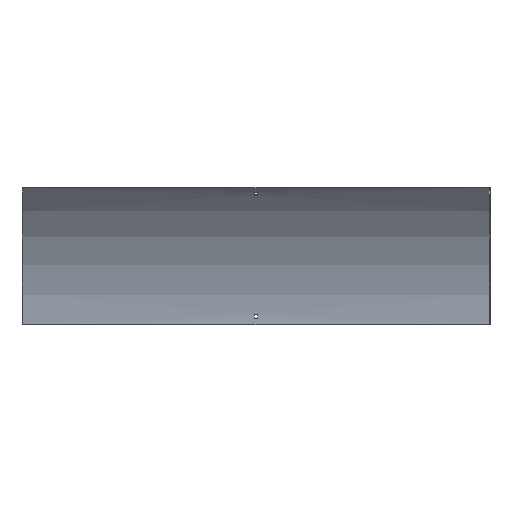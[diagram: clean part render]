
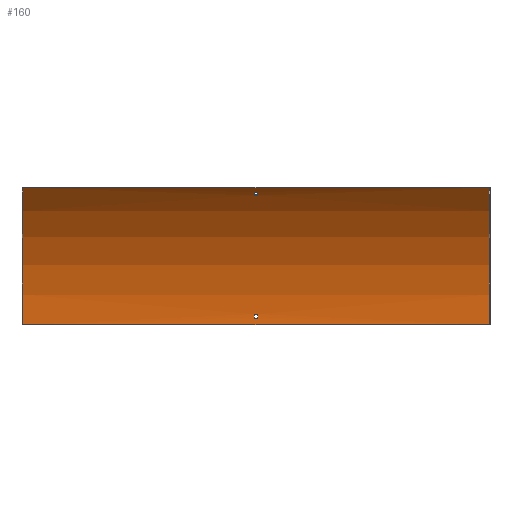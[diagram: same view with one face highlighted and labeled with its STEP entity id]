
A CAD part, front view. The second image highlights one B-rep face of the part: STEP entity #160.
In plain terms, the highlighted cylindrical face has radius 375 mm (diameter 750 mm), a partial arc.
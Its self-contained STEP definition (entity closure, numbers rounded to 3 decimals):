
#6 = DIRECTION ( 'NONE',  ( -1., 0., 0. ) ) ;
#14 = CARTESIAN_POINT ( 'NONE',  ( 451.5, -376.5, 0. ) ) ;
#15 = AXIS2_PLACEMENT_3D ( 'NONE', #451, #28, #536 ) ;
#16 = DIRECTION ( 'NONE',  ( 0., 0., 1. ) ) ;
#17 = CARTESIAN_POINT ( 'NONE',  ( 3.25, -376.5, 0. ) ) ;
#27 = CIRCLE ( 'NONE', #453, 375. ) ;
#28 = DIRECTION ( 'NONE',  ( 1., 0., 0. ) ) ;
#30 = DIRECTION ( 'NONE',  ( 0., 0., -1. ) ) ;
#35 = CARTESIAN_POINT ( 'NONE',  ( 451.5, -1.692, 12. ) ) ;
#43 = CARTESIAN_POINT ( 'NONE',  ( 450., -111.335, 265.165 ) ) ;
#59 = DIRECTION ( 'NONE',  ( 0., 0., -1. ) ) ;
#61 = VECTOR ( 'NONE', #334, 1000. ) ;
#62 = CARTESIAN_POINT ( 'NONE',  ( -450., -376.5, 0. ) ) ;
#65 = FACE_OUTER_BOUND ( 'NONE', #89, .T. ) ;
#82 = VECTOR ( 'NONE', #579, 1000. ) ;
#84 = EDGE_CURVE ( 'NONE', #548, #153, #145, .T. ) ;
#89 = EDGE_LOOP ( 'NONE', ( #166, #185, #238, #311 ) ) ;
#102 = VECTOR ( 'NONE', #492, 1000. ) ;
#108 = CARTESIAN_POINT ( 'NONE',  ( 451.5, -96.902, 249.9 ) ) ;
#112 = CIRCLE ( 'NONE', #195, 375. ) ;
#121 = DIRECTION ( 'NONE',  ( 1., 0., 0. ) ) ;
#131 = LINE ( 'NONE', #43, #568 ) ;
#143 = CARTESIAN_POINT ( 'NONE',  ( 451.5, -2.088, 21. ) ) ;
#145 = CIRCLE ( 'NONE', #520, 375. ) ;
#147 = CIRCLE ( 'NONE', #15, 375. ) ;
#153 = VERTEX_POINT ( 'NONE', #343 ) ;
#160 = ADVANCED_FACE ( 'NONE', ( #441, #65, #254 ), #440, .F. ) ;
#166 = ORIENTED_EDGE ( 'NONE', *, *, #322, .F. ) ;
#170 = DIRECTION ( 'NONE',  ( 1., 0., 0. ) ) ;
#181 = VERTEX_POINT ( 'NONE', #310 ) ;
#185 = ORIENTED_EDGE ( 'NONE', *, *, #482, .F. ) ;
#195 = AXIS2_PLACEMENT_3D ( 'NONE', #428, #6, #241 ) ;
#197 = DIRECTION ( 'NONE',  ( -1., 0., 0. ) ) ;
#202 = ORIENTED_EDGE ( 'NONE', *, *, #473, .F. ) ;
#205 = DIRECTION ( 'NONE',  ( 1., 0., 0. ) ) ;
#207 = DIRECTION ( 'NONE',  ( 0., 0., 1. ) ) ;
#212 = CARTESIAN_POINT ( 'NONE',  ( 451.5, -102.985, 256.544 ) ) ;
#213 = LINE ( 'NONE', #35, #299 ) ;
#214 = LINE ( 'NONE', #108, #61 ) ;
#230 = CARTESIAN_POINT ( 'NONE',  ( 3.25, -102.985, 256.544 ) ) ;
#235 = VERTEX_POINT ( 'NONE', #584 ) ;
#237 = CARTESIAN_POINT ( 'NONE',  ( -3.25, -1.692, 12. ) ) ;
#238 = ORIENTED_EDGE ( 'NONE', *, *, #387, .T. ) ;
#241 = DIRECTION ( 'NONE',  ( 0., 0., 1. ) ) ;
#254 = FACE_BOUND ( 'NONE', #366, .T. ) ;
#265 = EDGE_CURVE ( 'NONE', #458, #235, #213, .T. ) ;
#277 = ORIENTED_EDGE ( 'NONE', *, *, #402, .T. ) ;
#282 = ORIENTED_EDGE ( 'NONE', *, *, #514, .F. ) ;
#290 = DIRECTION ( 'NONE',  ( 0., 0., -1. ) ) ;
#294 = CARTESIAN_POINT ( 'NONE',  ( 450., -376.5, 0. ) ) ;
#295 = EDGE_CURVE ( 'NONE', #586, #300, #147, .T. ) ;
#299 = VECTOR ( 'NONE', #443, 1000. ) ;
#300 = VERTEX_POINT ( 'NONE', #542 ) ;
#310 = CARTESIAN_POINT ( 'NONE',  ( 450., -111.335, 265.165 ) ) ;
#311 = ORIENTED_EDGE ( 'NONE', *, *, #601, .T. ) ;
#322 = EDGE_CURVE ( 'NONE', #541, #587, #27, .T. ) ;
#330 = VERTEX_POINT ( 'NONE', #477 ) ;
#334 = DIRECTION ( 'NONE',  ( -1., 0., 0. ) ) ;
#343 = CARTESIAN_POINT ( 'NONE',  ( 3.25, -96.902, 249.9 ) ) ;
#346 = LINE ( 'NONE', #528, #102 ) ;
#349 = EDGE_CURVE ( 'NONE', #300, #548, #427, .T. ) ;
#350 = DIRECTION ( 'NONE',  ( -1., 0., 0. ) ) ;
#352 = DIRECTION ( 'NONE',  ( 1., 0., 0. ) ) ;
#356 = EDGE_LOOP ( 'NONE', ( #411, #202, #282, #407 ) ) ;
#362 = CARTESIAN_POINT ( 'NONE',  ( -3.25, -96.902, 249.9 ) ) ;
#366 = EDGE_LOOP ( 'NONE', ( #277, #506, #551, #538 ) ) ;
#372 = CARTESIAN_POINT ( 'NONE',  ( -450., -1.5, 0. ) ) ;
#387 = EDGE_CURVE ( 'NONE', #544, #181, #479, .T. ) ;
#390 = LINE ( 'NONE', #143, #82 ) ;
#393 = DIRECTION ( 'NONE',  ( -1., 0., 0. ) ) ;
#394 = CARTESIAN_POINT ( 'NONE',  ( 3.25, -376.5, 0. ) ) ;
#402 = EDGE_CURVE ( 'NONE', #153, #586, #214, .T. ) ;
#407 = ORIENTED_EDGE ( 'NONE', *, *, #265, .F. ) ;
#411 = ORIENTED_EDGE ( 'NONE', *, *, #435, .F. ) ;
#412 = CARTESIAN_POINT ( 'NONE',  ( 450., -1.5, 0. ) ) ;
#415 = VERTEX_POINT ( 'NONE', #515 ) ;
#427 = LINE ( 'NONE', #212, #433 ) ;
#428 = CARTESIAN_POINT ( 'NONE',  ( -3.25, -376.5, 0. ) ) ;
#433 = VECTOR ( 'NONE', #121, 1000. ) ;
#435 = EDGE_CURVE ( 'NONE', #415, #458, #112, .T. ) ;
#440 = CYLINDRICAL_SURFACE ( 'NONE', #489, 375. ) ;
#441 = FACE_BOUND ( 'NONE', #356, .T. ) ;
#442 = AXIS2_PLACEMENT_3D ( 'NONE', #17, #170, #30 ) ;
#443 = DIRECTION ( 'NONE',  ( 1., 0., 0. ) ) ;
#446 = CARTESIAN_POINT ( 'NONE',  ( -450., -111.335, 265.165 ) ) ;
#451 = CARTESIAN_POINT ( 'NONE',  ( -3.25, -376.5, 0. ) ) ;
#453 = AXIS2_PLACEMENT_3D ( 'NONE', #62, #352, #290 ) ;
#458 = VERTEX_POINT ( 'NONE', #237 ) ;
#473 = EDGE_CURVE ( 'NONE', #330, #415, #390, .T. ) ;
#477 = CARTESIAN_POINT ( 'NONE',  ( 3.25, -2.088, 21. ) ) ;
#479 = CIRCLE ( 'NONE', #583, 375. ) ;
#482 = EDGE_CURVE ( 'NONE', #544, #541, #346, .T. ) ;
#489 = AXIS2_PLACEMENT_3D ( 'NONE', #14, #350, #16 ) ;
#492 = DIRECTION ( 'NONE',  ( -1., 0., 0. ) ) ;
#502 = CIRCLE ( 'NONE', #442, 375. ) ;
#506 = ORIENTED_EDGE ( 'NONE', *, *, #295, .T. ) ;
#514 = EDGE_CURVE ( 'NONE', #235, #330, #502, .T. ) ;
#515 = CARTESIAN_POINT ( 'NONE',  ( -3.25, -2.088, 21. ) ) ;
#520 = AXIS2_PLACEMENT_3D ( 'NONE', #394, #393, #207 ) ;
#528 = CARTESIAN_POINT ( 'NONE',  ( 450., -1.5, 0. ) ) ;
#536 = DIRECTION ( 'NONE',  ( 0., 0., -1. ) ) ;
#538 = ORIENTED_EDGE ( 'NONE', *, *, #84, .T. ) ;
#541 = VERTEX_POINT ( 'NONE', #372 ) ;
#542 = CARTESIAN_POINT ( 'NONE',  ( -3.25, -102.985, 256.544 ) ) ;
#544 = VERTEX_POINT ( 'NONE', #412 ) ;
#548 = VERTEX_POINT ( 'NONE', #230 ) ;
#551 = ORIENTED_EDGE ( 'NONE', *, *, #349, .T. ) ;
#568 = VECTOR ( 'NONE', #197, 1000. ) ;
#579 = DIRECTION ( 'NONE',  ( -1., 0., 0. ) ) ;
#583 = AXIS2_PLACEMENT_3D ( 'NONE', #294, #205, #59 ) ;
#584 = CARTESIAN_POINT ( 'NONE',  ( 3.25, -1.692, 12. ) ) ;
#586 = VERTEX_POINT ( 'NONE', #362 ) ;
#587 = VERTEX_POINT ( 'NONE', #446 ) ;
#601 = EDGE_CURVE ( 'NONE', #181, #587, #131, .T. ) ;
